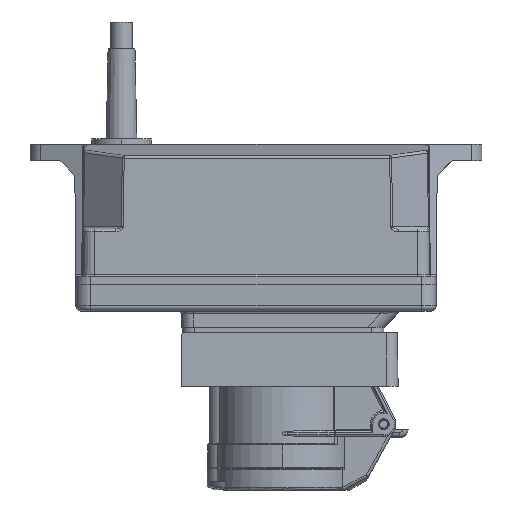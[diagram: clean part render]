
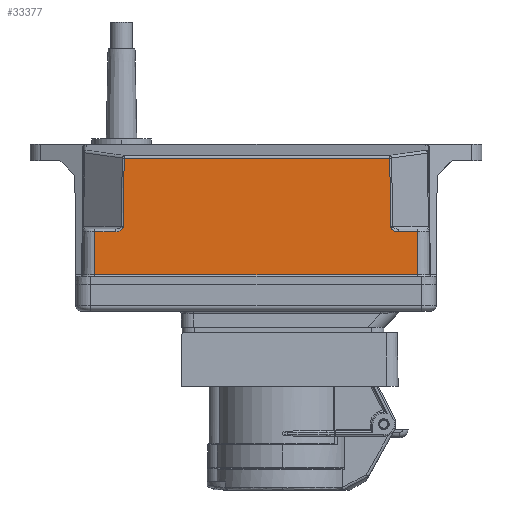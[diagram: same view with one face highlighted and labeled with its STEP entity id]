
A CAD part, left-side view. The second image highlights one B-rep face of the part: STEP entity #33377.
In plain terms, the highlighted planar face has unit normal (-1, 0, 0.009).
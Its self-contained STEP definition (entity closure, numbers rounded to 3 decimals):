
#142 = CARTESIAN_POINT ( 'NONE',  ( -43.496, -60., 3.496 ) ) ;
#616 = CARTESIAN_POINT ( 'NONE',  ( -43.5, 60., 3. ) ) ;
#1146 = VERTEX_POINT ( 'NONE', #17170 ) ;
#1274 = ORIENTED_EDGE ( 'NONE', *, *, #2075, .T. ) ;
#2075 = EDGE_CURVE ( 'NONE', #23270, #29728, #21034, .T. ) ;
#2893 = EDGE_CURVE ( 'NONE', #8936, #23270, #27489, .T. ) ;
#3050 = CARTESIAN_POINT ( 'NONE',  ( -43.356, -52.926, 19.509 ) ) ;
#3312 = ORIENTED_EDGE ( 'NONE', *, *, #16770, .T. ) ;
#3390 = EDGE_CURVE ( 'NONE', #29728, #6241, #29904, .T. ) ;
#4161 = EDGE_CURVE ( 'NONE', #32701, #21454, #24240, .T. ) ;
#4794 = LINE ( 'NONE', #27581, #35828 ) ;
#4934 = EDGE_CURVE ( 'NONE', #32701, #6241, #16824, .T. ) ;
#5364 = CARTESIAN_POINT ( 'NONE',  ( -43.356, -52.926, 19.509 ) ) ;
#5439 = CARTESIAN_POINT ( 'NONE',  ( -43.5, -60., 3. ) ) ;
#5493 = CARTESIAN_POINT ( 'NONE',  ( -43.339, 49.408, 21.474 ) ) ;
#6003 = CARTESIAN_POINT ( 'NONE',  ( -43.339, -50.115, 21.474 ) ) ;
#6006 = EDGE_CURVE ( 'NONE', #8936, #35615, #29267, .T. ) ;
#6241 = VERTEX_POINT ( 'NONE', #5364 ) ;
#6250 = VERTEX_POINT ( 'NONE', #5493 ) ;
#6276 = DIRECTION ( 'NONE',  ( -0.009, 0.016, -1. ) ) ;
#6359 = ORIENTED_EDGE ( 'NONE', *, *, #2893, .T. ) ;
#6966 = EDGE_CURVE ( 'NONE', #21454, #11375, #4794, .T. ) ;
#6979 = DIRECTION ( 'NONE',  ( 0.009, 0., 1. ) ) ;
#7107 = CARTESIAN_POINT ( 'NONE',  ( -43.349, 49.427, 20.319 ) ) ;
#7367 = VECTOR ( 'NONE', #20354, 1000. ) ;
#7463 = PLANE ( 'NONE',  #33910 ) ;
#8581 = EDGE_LOOP ( 'NONE', ( #25440, #6359, #1274, #27135, #30570, #26752, #14262, #3312, #33929, #21911 ) ) ;
#8936 = VERTEX_POINT ( 'NONE', #31928 ) ;
#10405 = VECTOR ( 'NONE', #6276, 1000. ) ;
#11375 = VERTEX_POINT ( 'NONE', #25484 ) ;
#11495 = LINE ( 'NONE', #37680, #26464 ) ;
#11596 = VECTOR ( 'NONE', #30300, 1000. ) ;
#13512 = CARTESIAN_POINT ( 'NONE',  ( -43.5, 61.5, 3. ) ) ;
#14262 = ORIENTED_EDGE ( 'NONE', *, *, #6966, .T. ) ;
#15719 = DIRECTION ( 'NONE',  ( 0., 1., 0. ) ) ;
#15777 = CARTESIAN_POINT ( 'NONE',  ( -43.356, 60., 19.509 ) ) ;
#15997 = CARTESIAN_POINT ( 'NONE',  ( -43.117, -49.71, 46.886 ) ) ;
#16536 = DIRECTION ( 'NONE',  ( 0.009, 0., 1. ) ) ;
#16770 = EDGE_CURVE ( 'NONE', #11375, #6250, #25387, .T. ) ;
#16824 =( BOUNDED_CURVE ( )  B_SPLINE_CURVE ( 3, ( #6003, #39149, #21132, #3050 ),
 .UNSPECIFIED., .F., .F. ) 
 B_SPLINE_CURVE_WITH_KNOTS ( ( 4, 4 ),
 ( 0.005, 1.558 ),
 .UNSPECIFIED. ) 
 CURVE ( )  GEOMETRIC_REPRESENTATION_ITEM ( )  RATIONAL_B_SPLINE_CURVE ( ( 1., 0.809, 0.809, 1. ) ) 
 REPRESENTATION_ITEM ( '' )  );
#17170 = CARTESIAN_POINT ( 'NONE',  ( -43.356, 52.219, 19.509 ) ) ;
#20354 = DIRECTION ( 'NONE',  ( 0.009, 0.016, 1. ) ) ;
#20947 = FACE_OUTER_BOUND ( 'NONE', #8581, .T. ) ;
#21034 = LINE ( 'NONE', #5439, #27078 ) ;
#21132 = CARTESIAN_POINT ( 'NONE',  ( -43.356, -51.292, 19.509 ) ) ;
#21454 = VERTEX_POINT ( 'NONE', #15997 ) ;
#21728 =( BOUNDED_CURVE ( )  B_SPLINE_CURVE ( 3, ( #22083, #25056, #7107, #28035 ),
 .UNSPECIFIED., .F., .F. ) 
 B_SPLINE_CURVE_WITH_KNOTS ( ( 4, 4 ),
 ( 4.725, 6.278 ),
 .UNSPECIFIED. ) 
 CURVE ( )  GEOMETRIC_REPRESENTATION_ITEM ( )  RATIONAL_B_SPLINE_CURVE ( ( 1., 0.809, 0.809, 1. ) ) 
 REPRESENTATION_ITEM ( '' )  );
#21911 = ORIENTED_EDGE ( 'NONE', *, *, #34328, .T. ) ;
#22052 = CARTESIAN_POINT ( 'NONE',  ( -43.339, -50.115, 21.474 ) ) ;
#22083 = CARTESIAN_POINT ( 'NONE',  ( -43.356, 52.219, 19.509 ) ) ;
#22679 = CARTESIAN_POINT ( 'NONE',  ( -43.356, -50.545, 19.509 ) ) ;
#23270 = VERTEX_POINT ( 'NONE', #29381 ) ;
#23454 = DIRECTION ( 'NONE',  ( 0.009, 0., 1. ) ) ;
#24240 = LINE ( 'NONE', #26331, #7367 ) ;
#25056 = CARTESIAN_POINT ( 'NONE',  ( -43.356, 50.585, 19.509 ) ) ;
#25387 = LINE ( 'NONE', #30293, #10405 ) ;
#25440 = ORIENTED_EDGE ( 'NONE', *, *, #6006, .F. ) ;
#25484 = CARTESIAN_POINT ( 'NONE',  ( -43.117, 49.003, 46.886 ) ) ;
#26331 = CARTESIAN_POINT ( 'NONE',  ( -43.11, -49.696, 47.741 ) ) ;
#26464 = VECTOR ( 'NONE', #34639, 1000. ) ;
#26752 = ORIENTED_EDGE ( 'NONE', *, *, #4161, .T. ) ;
#27078 = VECTOR ( 'NONE', #23454, 1000. ) ;
#27135 = ORIENTED_EDGE ( 'NONE', *, *, #3390, .T. ) ;
#27373 = CARTESIAN_POINT ( 'NONE',  ( -43.356, -60., 19.509 ) ) ;
#27489 = LINE ( 'NONE', #142, #11596 ) ;
#27581 = CARTESIAN_POINT ( 'NONE',  ( -43.117, 49.403, 46.886 ) ) ;
#28035 = CARTESIAN_POINT ( 'NONE',  ( -43.339, 49.408, 21.474 ) ) ;
#29267 = LINE ( 'NONE', #616, #37311 ) ;
#29298 = DIRECTION ( 'NONE',  ( 0., 1., 0. ) ) ;
#29381 = CARTESIAN_POINT ( 'NONE',  ( -43.496, -60., 3.496 ) ) ;
#29728 = VERTEX_POINT ( 'NONE', #27373 ) ;
#29904 = LINE ( 'NONE', #22679, #36991 ) ;
#30293 = CARTESIAN_POINT ( 'NONE',  ( -43.347, 49.424, 20.493 ) ) ;
#30300 = DIRECTION ( 'NONE',  ( 0., -1., 0. ) ) ;
#30570 = ORIENTED_EDGE ( 'NONE', *, *, #4934, .F. ) ;
#31928 = CARTESIAN_POINT ( 'NONE',  ( -43.496, 60., 3.496 ) ) ;
#32701 = VERTEX_POINT ( 'NONE', #22052 ) ;
#33377 = ADVANCED_FACE ( 'NONE', ( #20947 ), #7463, .T. ) ;
#33910 = AXIS2_PLACEMENT_3D ( 'NONE', #13512, #34486, #16536 ) ;
#33929 = ORIENTED_EDGE ( 'NONE', *, *, #35617, .F. ) ;
#34328 = EDGE_CURVE ( 'NONE', #1146, #35615, #11495, .T. ) ;
#34486 = DIRECTION ( 'NONE',  ( -1., 0., 0.009 ) ) ;
#34639 = DIRECTION ( 'NONE',  ( 0., 1., 0. ) ) ;
#35615 = VERTEX_POINT ( 'NONE', #15777 ) ;
#35617 = EDGE_CURVE ( 'NONE', #1146, #6250, #21728, .T. ) ;
#35828 = VECTOR ( 'NONE', #15719, 1000. ) ;
#36991 = VECTOR ( 'NONE', #29298, 1000. ) ;
#37311 = VECTOR ( 'NONE', #6979, 1000. ) ;
#37680 = CARTESIAN_POINT ( 'NONE',  ( -43.356, 61.5, 19.509 ) ) ;
#39149 = CARTESIAN_POINT ( 'NONE',  ( -43.349, -50.134, 20.319 ) ) ;
